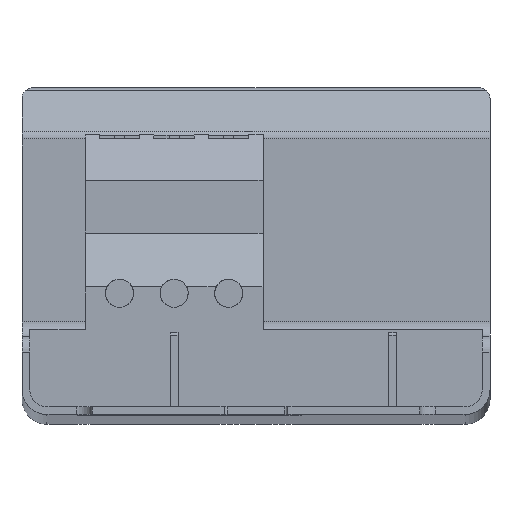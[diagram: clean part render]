
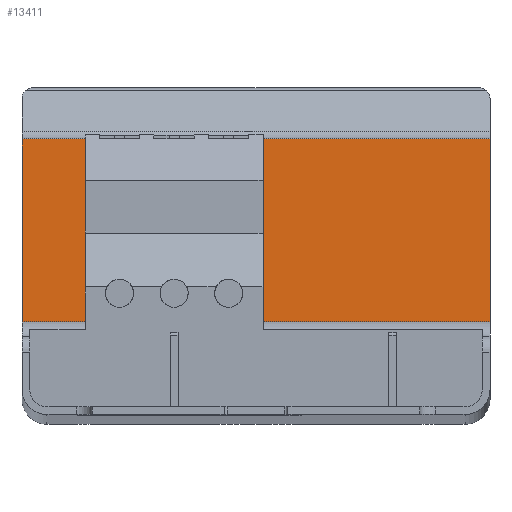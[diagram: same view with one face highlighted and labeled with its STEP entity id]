
A CAD part, top view. The second image highlights one B-rep face of the part: STEP entity #13411.
In plain terms, the highlighted planar face has unit normal (0, 0, 1).
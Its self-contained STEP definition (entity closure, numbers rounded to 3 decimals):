
#3815=DIRECTION('',(1.,0.,0.));
#3816=VECTOR('',#3815,30.);
#3817=CARTESIAN_POINT('',(-15.,6.,150.7));
#3818=LINE('',#3817,#3816);
#5659=DIRECTION('',(0.,1.,0.));
#5660=VECTOR('',#5659,11.71);
#5661=CARTESIAN_POINT('',(-15.,6.,150.7));
#5662=LINE('',#5661,#5660);
#5666=DIRECTION('',(1.,0.,0.));
#5667=VECTOR('',#5666,30.);
#5668=CARTESIAN_POINT('',(-15.,17.71,150.7));
#5669=LINE('',#5668,#5667);
#5673=DIRECTION('',(0.,-1.,0.));
#5674=VECTOR('',#5673,11.71);
#5675=CARTESIAN_POINT('',(15.,17.71,150.7));
#5676=LINE('',#5675,#5674);
#8429=CARTESIAN_POINT('',(-15.,17.71,150.7));
#8430=CARTESIAN_POINT('',(15.,17.71,150.7));
#8431=VERTEX_POINT('',#8429);
#8432=VERTEX_POINT('',#8430);
#8757=CARTESIAN_POINT('',(15.,6.,150.7));
#8758=VERTEX_POINT('',#8757);
#8759=CARTESIAN_POINT('',(-15.,6.,150.7));
#8760=VERTEX_POINT('',#8759);
#13399=CARTESIAN_POINT('',(-15.,5.45,150.7));
#13400=DIRECTION('',(0.,0.,1.));
#13401=DIRECTION('',(0.,1.,0.));
#13402=AXIS2_PLACEMENT_3D('',#13399,#13400,#13401);
#13403=PLANE('',#13402);
#13404=ORIENTED_EDGE('',*,*,#11822,.F.);
#13405=ORIENTED_EDGE('',*,*,#8818,.T.);
#13407=ORIENTED_EDGE('',*,*,#13406,.T.);
#13408=ORIENTED_EDGE('',*,*,#8998,.T.);
#13409=EDGE_LOOP('',(#13404,#13405,#13407,#13408));
#13410=FACE_OUTER_BOUND('',#13409,.F.);
#8818=EDGE_CURVE('',#8760,#8431,#5662,.T.);
#8998=EDGE_CURVE('',#8432,#8758,#5676,.T.);
#11822=EDGE_CURVE('',#8760,#8758,#3818,.T.);
#13406=EDGE_CURVE('',#8431,#8432,#5669,.T.);
#13411=ADVANCED_FACE('',(#13410),#13403,.T.);
